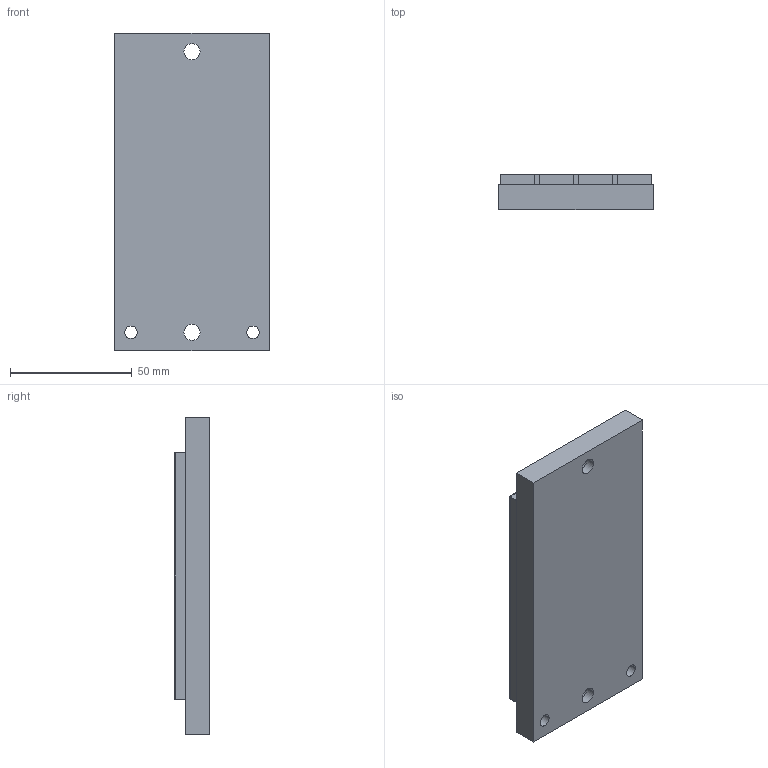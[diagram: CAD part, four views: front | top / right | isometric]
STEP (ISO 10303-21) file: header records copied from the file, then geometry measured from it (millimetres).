
FILE_DESCRIPTION((''),'2;1');
FILE_NAME('MC100-0064-WC','2007-01-14T',('saurabh.singhal'),(''),'PRO/ENGINEER BY PARAMETRIC TECHNOLOGY CORPORATION, 2005450','PRO/ENGINEER BY PARAMETRIC TECHNOLOGY CORPORATION, 2005450','');
FILE_SCHEMA(('CONFIG_CONTROL_DESIGN'));
Length unit declared in the file: millimetre
Products named in the file (1): MC100-0064-WC
Bounding box: 63.3 x 14.4 x 130 mm (x, y, z)
Volume: 104995 mm3; surface area: 38443.5 mm2
Topology: 1 solids, 1 shells, 48 faces, 120 edges, 80 vertices
Faces by surface type: plane 36, cylinder 12
Entity records: 1486 total; most frequent: CARTESIAN_POINT 248, DIRECTION 240, ORIENTED_EDGE 240, EDGE_CURVE 120, VECTOR 96, LINE 96, VERTEX_POINT 80, AXIS2_PLACEMENT_3D 72
